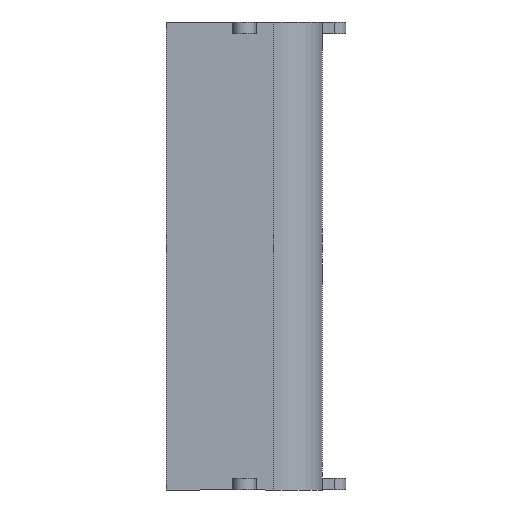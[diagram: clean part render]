
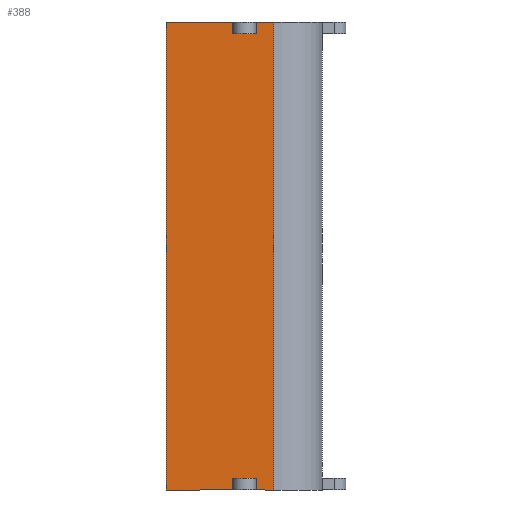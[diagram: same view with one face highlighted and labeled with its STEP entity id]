
A CAD part, front view. The second image highlights one B-rep face of the part: STEP entity #388.
In plain terms, the highlighted planar face has unit normal (0, -1, 0).
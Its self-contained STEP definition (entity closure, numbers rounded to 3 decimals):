
#388=ADVANCED_FACE('',(#948),#949,.T.);
#948=FACE_OUTER_BOUND('',#1666,.T.);
#949=PLANE('',#1667);
#1666=EDGE_LOOP('',(#2989,#2990,#2991,#2992,#2993,#2994,#2995,#2996,#2997,#2998,#2999,#3000));
#1667=AXIS2_PLACEMENT_3D('',#3001,#3002,#3003);
#2989=ORIENTED_EDGE('',*,*,#4588,.F.);
#2990=ORIENTED_EDGE('',*,*,#4716,.T.);
#2991=ORIENTED_EDGE('',*,*,#4778,.T.);
#2992=ORIENTED_EDGE('',*,*,#4599,.T.);
#2993=ORIENTED_EDGE('',*,*,#4815,.F.);
#2994=ORIENTED_EDGE('',*,*,#4816,.F.);
#2995=ORIENTED_EDGE('',*,*,#4817,.T.);
#2996=ORIENTED_EDGE('',*,*,#4595,.T.);
#2997=ORIENTED_EDGE('',*,*,#4818,.F.);
#2998=ORIENTED_EDGE('',*,*,#4719,.T.);
#2999=ORIENTED_EDGE('',*,*,#4819,.T.);
#3000=ORIENTED_EDGE('',*,*,#4820,.F.);
#3001=CARTESIAN_POINT('',(135.75,-41.0,0.));
#3002=DIRECTION('',(0.,-1.0,0.0));
#3003=DIRECTION('',(1.0,0.,0.0));
#4588=EDGE_CURVE('',#5695,#5691,#5697,.T.);
#4595=EDGE_CURVE('',#5707,#5705,#5708,.T.);
#4599=EDGE_CURVE('',#5715,#5713,#5716,.T.);
#4716=EDGE_CURVE('',#5695,#5907,#5909,.T.);
#4719=EDGE_CURVE('',#5914,#5912,#5915,.T.);
#4778=EDGE_CURVE('',#5907,#5715,#6008,.T.);
#4815=EDGE_CURVE('',#6054,#5713,#6055,.T.);
#4816=EDGE_CURVE('',#6056,#6054,#6057,.T.);
#4817=EDGE_CURVE('',#6056,#5707,#6058,.T.);
#4818=EDGE_CURVE('',#5914,#5705,#6059,.T.);
#4819=EDGE_CURVE('',#5912,#6060,#6061,.T.);
#4820=EDGE_CURVE('',#5691,#6060,#6062,.T.);
#5691=VERTEX_POINT('',#7437);
#5695=VERTEX_POINT('',#7443);
#5697=LINE('',#7446,#7447);
#5705=VERTEX_POINT('',#7457);
#5707=VERTEX_POINT('',#7460);
#5708=LINE('',#7461,#7462);
#5713=VERTEX_POINT('',#7468);
#5715=VERTEX_POINT('',#7471);
#5716=LINE('',#7472,#7473);
#5907=VERTEX_POINT('',#7744);
#5909=LINE('',#7746,#7747);
#5912=VERTEX_POINT('',#7750);
#5914=VERTEX_POINT('',#7753);
#5915=LINE('',#7754,#7755);
#6008=LINE('',#7878,#7879);
#6054=VERTEX_POINT('',#7989);
#6055=LINE('',#7990,#7991);
#6056=VERTEX_POINT('',#7992);
#6057=LINE('',#7993,#7994);
#6058=LINE('',#7995,#7996);
#6059=LINE('',#7997,#7998);
#6060=VERTEX_POINT('',#7999);
#6061=LINE('',#8000,#8001);
#6062=LINE('',#8002,#8003);
#7437=CARTESIAN_POINT('',(145.,-41.,3.0));
#7443=CARTESIAN_POINT('',(145.,-41.,0.));
#7446=CARTESIAN_POINT('',(145.,-41.,0.));
#7447=VECTOR('',#9071,1.0);
#7457=CARTESIAN_POINT('',(122.,-41.0,120.0));
#7460=CARTESIAN_POINT('',(139.,-41.,120.0));
#7461=CARTESIAN_POINT('',(122.,-41.0,120.0));
#7462=VECTOR('',#9078,1.0);
#7468=CARTESIAN_POINT('',(145.,-41.0,120.0));
#7471=CARTESIAN_POINT('',(149.5,-41.0,120.0));
#7472=CARTESIAN_POINT('',(122.,-41.0,120.0));
#7473=VECTOR('',#9084,1.0);
#7744=CARTESIAN_POINT('',(149.5,-41.0,0.));
#7746=CARTESIAN_POINT('',(122.,-41.0,0.));
#7747=VECTOR('',#9264,1.0);
#7750=CARTESIAN_POINT('',(139.,-41.,0.));
#7753=CARTESIAN_POINT('',(122.,-41.0,0.));
#7754=CARTESIAN_POINT('',(122.,-41.0,0.));
#7755=VECTOR('',#9269,1.0);
#7878=CARTESIAN_POINT('',(149.5,-41.0,0.));
#7879=VECTOR('',#9363,1.0);
#7989=CARTESIAN_POINT('',(145.,-41.0,117.0));
#7990=CARTESIAN_POINT('',(145.,-41.0,117.0));
#7991=VECTOR('',#9391,1.0);
#7992=CARTESIAN_POINT('',(139.,-41.,117.0));
#7993=CARTESIAN_POINT('',(139.,-41.,117.0));
#7994=VECTOR('',#9392,1.0);
#7995=CARTESIAN_POINT('',(139.,-41.,117.0));
#7996=VECTOR('',#9393,1.0);
#7997=CARTESIAN_POINT('',(122.,-41.0,0.));
#7998=VECTOR('',#9394,1.0);
#7999=CARTESIAN_POINT('',(139.,-41.,3.0));
#8000=CARTESIAN_POINT('',(139.,-41.,0.));
#8001=VECTOR('',#9395,1.0);
#8002=CARTESIAN_POINT('',(139.,-41.,3.0));
#8003=VECTOR('',#9396,1.0);
#9071=DIRECTION('',(0.0,0.,1.0));
#9078=DIRECTION('',(-1.0,0.,0.0));
#9084=DIRECTION('',(-1.0,0.,0.0));
#9264=DIRECTION('',(1.0,0.,0.0));
#9269=DIRECTION('',(1.0,0.,0.0));
#9363=DIRECTION('',(0.0,0.0,1.0));
#9391=DIRECTION('',(0.0,0.,1.0));
#9392=DIRECTION('',(1.0,0.,0.));
#9393=DIRECTION('',(0.0,0.,1.0));
#9394=DIRECTION('',(0.0,0.0,1.0));
#9395=DIRECTION('',(0.0,0.,1.0));
#9396=DIRECTION('',(-1.0,0.,0.));
